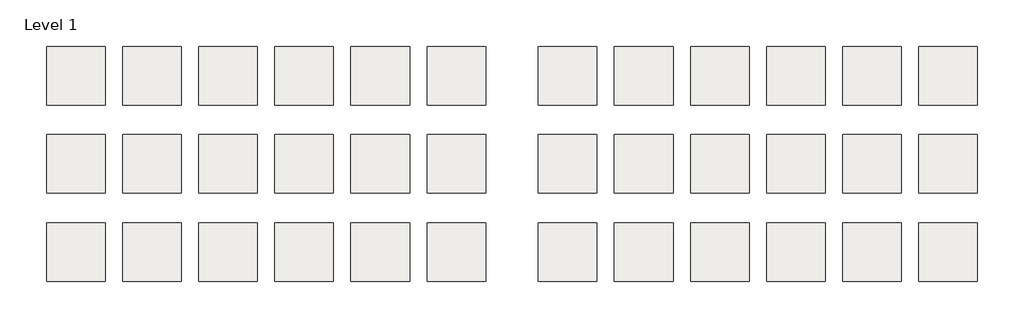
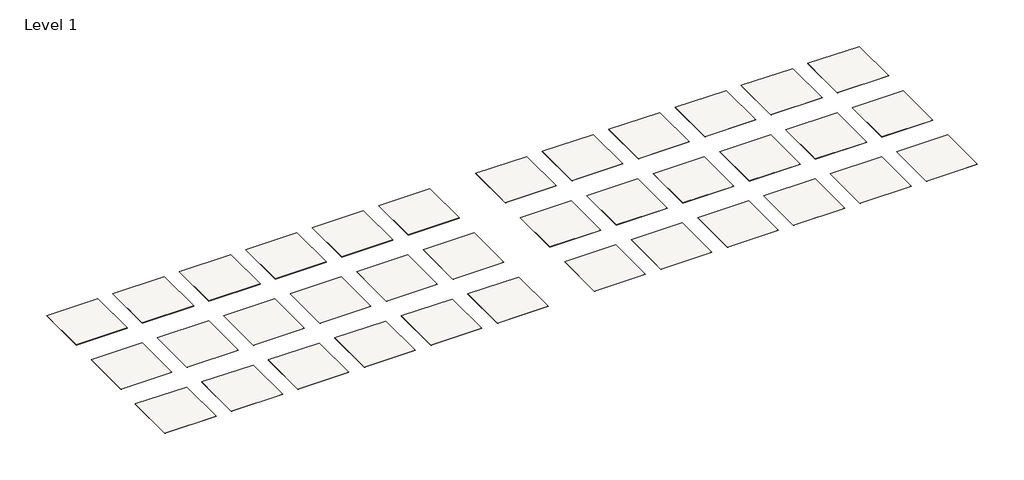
# One storey: 36 slabs.
"""IFC4 building model written with IfcOpenShell, lengths in millimetres."""

from ifc_helpers import new_model, si_unit, frame, origin, place, context, project, spatial, polyline, outline, extrude, element, save

model = new_model("IFC4")

# Units and contexts
model_context = context("Model", 3, world=origin())
ifc_project = project(units=[si_unit("LENGTHUNIT", "METRE", prefix="MILLI")], contexts=[model_context])

# Site, building, storey
site = spatial("IfcSite", under=ifc_project)
building = spatial("IfcBuilding", under=site)
storey = spatial("IfcBuildingStorey", under=building, Name="Level 1", Elevation=0.0)

# Slabs
placement = place(None, origin())
element("IfcSlab", 1, ObjectType="Armstrong_VCT_RaffiaStream_Z5900 Avalanche", at=placement, inside=storey, context=model_context, shape_type="SweptSolid", body=[
    extrude(outline(polyline([(1524.0, 0.0), (0.0, 0.0), (0.0, 1524.0), (1524.0, 1524.0), (1524.0, 0.0)])), frame((0.0, 0.0, -3.175), z_axis=(0.0, 0.0, 1.0), x_axis=(1.0, 0.0, 0.0)), (0.0, 0.0, 1.0), 3.175),
])
element("IfcSlab", 2, ObjectType="Armstrong_VCT_RaffiaStream_Z5901 Rain", at=placement, inside=storey, context=model_context, shape_type="SweptSolid", body=[
    extrude(outline(polyline([(3505.2, 0.0), (1981.2, 0.0), (1981.2, 1524.0), (3505.2, 1524.0), (3505.2, 0.0)])), frame((0.0, 0.0, -3.175), z_axis=(0.0, 0.0, 1.0), x_axis=(1.0, 0.0, 0.0)), (0.0, 0.0, 1.0), 3.175),
])
element("IfcSlab", 3, ObjectType="Armstrong_VCT_RaffiaStream_Z5920 Solar", at=placement, inside=storey, context=model_context, shape_type="SweptSolid", body=[
    extrude(outline(polyline([(5486.4, 0.0), (3962.4, 0.0), (3962.4, 1524.0), (5486.4, 1524.0), (5486.4, 0.0)])), frame((0.0, 0.0, -3.175), z_axis=(0.0, 0.0, 1.0), x_axis=(1.0, 0.0, 0.0)), (0.0, 0.0, 1.0), 3.175),
])
element("IfcSlab", 4, ObjectType="Armstrong_VCT_RaffiaStream_Z5921 Shamrock", at=placement, inside=storey, context=model_context, shape_type="SweptSolid", body=[
    extrude(outline(polyline([(7467.6, 0.0), (5943.6, 0.0), (5943.6, 1524.0), (7467.6, 1524.0), (7467.6, 0.0)])), frame((0.0, 0.0, -3.175), z_axis=(0.0, 0.0, 1.0), x_axis=(1.0, 0.0, 0.0)), (0.0, 0.0, 1.0), 3.175),
])
element("IfcSlab", 5, ObjectType="Armstrong_VCT_RaffiaStream_Z5922 Thunderstorm", at=placement, inside=storey, context=model_context, shape_type="SweptSolid", body=[
    extrude(outline(polyline([(9448.8, 0.0), (7924.8, 0.0), (7924.8, 1524.0), (9448.8, 1524.0), (9448.8, 0.0)])), frame((0.0, 0.0, -3.175), z_axis=(0.0, 0.0, 1.0), x_axis=(1.0, 0.0, 0.0)), (0.0, 0.0, 1.0), 3.175),
])
element("IfcSlab", 6, ObjectType="Armstrong_VCT_RaffiaStream_Z5923 Dark Sky", at=placement, inside=storey, context=model_context, shape_type="SweptSolid", body=[
    extrude(outline(polyline([(11430.0, 0.0), (9906.0, 0.0), (9906.0, 1524.0), (11430.0, 1524.0), (11430.0, 0.0)])), frame((0.0, 0.0, -3.175), z_axis=(0.0, 0.0, 1.0), x_axis=(1.0, 0.0, 0.0)), (0.0, 0.0, 1.0), 3.175),
])
element("IfcSlab", 7, ObjectType="Armstrong_VCT_RaffiaStream_Z5924 Equinox", at=placement, inside=storey, context=model_context, shape_type="SweptSolid", body=[
    extrude(outline(polyline([(1524.0, -2297.2639807), (0.0, -2297.2639807), (0.0, -773.2639807), (1524.0, -773.2639807), (1524.0, -2297.2639807)])), frame((0.0, 0.0, -3.175), z_axis=(0.0, 0.0, 1.0), x_axis=(1.0, 0.0, 0.0)), (0.0, 0.0, 1.0), 3.175),
])
element("IfcSlab", 8, ObjectType="Armstrong_VCT_RaffiaStream_Z5926 Earth", at=placement, inside=storey, context=model_context, shape_type="SweptSolid", body=[
    extrude(outline(polyline([(3505.2, -2297.2639807), (1981.2, -2297.2639807), (1981.2, -773.2639807), (3505.2, -773.2639807), (3505.2, -2297.2639807)])), frame((0.0, 0.0, -3.175), z_axis=(0.0, 0.0, 1.0), x_axis=(1.0, 0.0, 0.0)), (0.0, 0.0, 1.0), 3.175),
])
element("IfcSlab", 9, ObjectType="Armstrong_VCT_RaffiaStream_Z5927 Dust", at=placement, inside=storey, context=model_context, shape_type="SweptSolid", body=[
    extrude(outline(polyline([(5486.4, -2297.2639807), (3962.4, -2297.2639807), (3962.4, -773.2639807), (5486.4, -773.2639807), (5486.4, -2297.2639807)])), frame((0.0, 0.0, -3.175), z_axis=(0.0, 0.0, 1.0), x_axis=(1.0, 0.0, 0.0)), (0.0, 0.0, 1.0), 3.175),
])
element("IfcSlab", 10, ObjectType="Armstrong_VCT_RaffiaStream_Z5928 Winter Solstice", at=placement, inside=storey, context=model_context, shape_type="SweptSolid", body=[
    extrude(outline(polyline([(7467.6, -2297.2639807), (5943.6, -2297.2639807), (5943.6, -773.2639807), (7467.6, -773.2639807), (7467.6, -2297.2639807)])), frame((0.0, 0.0, -3.175), z_axis=(0.0, 0.0, 1.0), x_axis=(1.0, 0.0, 0.0)), (0.0, 0.0, 1.0), 3.175),
])
element("IfcSlab", 11, ObjectType="Armstrong_VCT_RaffiaStream_Z5929 Blizzard", at=placement, inside=storey, context=model_context, shape_type="SweptSolid", body=[
    extrude(outline(polyline([(9448.8, -2297.2639807), (7924.8, -2297.2639807), (7924.8, -773.2639807), (9448.8, -773.2639807), (9448.8, -2297.2639807)])), frame((0.0, 0.0, -3.175), z_axis=(0.0, 0.0, 1.0), x_axis=(1.0, 0.0, 0.0)), (0.0, 0.0, 1.0), 3.175),
])
element("IfcSlab", 12, ObjectType="Armstrong_VCT_RaffiaStream_Z5930 Opal", at=placement, inside=storey, context=model_context, shape_type="SweptSolid", body=[
    extrude(outline(polyline([(11430.0, -2297.2639807), (9906.0, -2297.2639807), (9906.0, -773.2639807), (11430.0, -773.2639807), (11430.0, -2297.2639807)])), frame((0.0, 0.0, -3.175), z_axis=(0.0, 0.0, 1.0), x_axis=(1.0, 0.0, 0.0)), (0.0, 0.0, 1.0), 3.175),
])
element("IfcSlab", 13, ObjectType="Armstrong_VCT_RaffiaStream_Z5933 Grey Cloud", at=placement, inside=storey, context=model_context, shape_type="SweptSolid", body=[
    extrude(outline(polyline([(1524.0, -4594.5279615), (0.0, -4594.5279615), (0.0, -3070.5279615), (1524.0, -3070.5279615), (1524.0, -4594.5279615)])), frame((0.0, 0.0, -3.175), z_axis=(0.0, 0.0, 1.0), x_axis=(1.0, 0.0, 0.0)), (0.0, 0.0, 1.0), 3.175),
])
element("IfcSlab", 14, ObjectType="Armstrong_VCT_RaffiaStream_Z5934 Moonlight", at=placement, inside=storey, context=model_context, shape_type="SweptSolid", body=[
    extrude(outline(polyline([(3505.2, -4594.5279615), (1981.2, -4594.5279615), (1981.2, -3070.5279615), (3505.2, -3070.5279615), (3505.2, -4594.5279615)])), frame((0.0, 0.0, -3.175), z_axis=(0.0, 0.0, 1.0), x_axis=(1.0, 0.0, 0.0)), (0.0, 0.0, 1.0), 3.175),
])
element("IfcSlab", 15, ObjectType="Armstrong_VCT_RaffiaStream_Z5935 Jade", at=placement, inside=storey, context=model_context, shape_type="SweptSolid", body=[
    extrude(outline(polyline([(5486.4, -4594.5279615), (3962.4, -4594.5279615), (3962.4, -3070.5279615), (5486.4, -3070.5279615), (5486.4, -4594.5279615)])), frame((0.0, 0.0, -3.175), z_axis=(0.0, 0.0, 1.0), x_axis=(1.0, 0.0, 0.0)), (0.0, 0.0, 1.0), 3.175),
])
element("IfcSlab", 16, ObjectType="Armstrong_VCT_RaffiaStream_Z5937 Electricity", at=placement, inside=storey, context=model_context, shape_type="SweptSolid", body=[
    extrude(outline(polyline([(7467.6, -4594.5279615), (5943.6, -4594.5279615), (5943.6, -3070.5279615), (7467.6, -3070.5279615), (7467.6, -4594.5279615)])), frame((0.0, 0.0, -3.175), z_axis=(0.0, 0.0, 1.0), x_axis=(1.0, 0.0, 0.0)), (0.0, 0.0, 1.0), 3.175),
])
element("IfcSlab", 17, ObjectType="Armstrong_VCT_RaffiaStream_Z5938 Flame", at=placement, inside=storey, context=model_context, shape_type="SweptSolid", body=[
    extrude(outline(polyline([(9448.8, -4594.5279615), (7924.8, -4594.5279615), (7924.8, -3070.5279615), (9448.8, -3070.5279615), (9448.8, -4594.5279615)])), frame((0.0, 0.0, -3.175), z_axis=(0.0, 0.0, 1.0), x_axis=(1.0, 0.0, 0.0)), (0.0, 0.0, 1.0), 3.175),
])
element("IfcSlab", 18, ObjectType="Armstrong_VCT_RaffiaStream_Z5940 Horizon", at=placement, inside=storey, context=model_context, shape_type="SweptSolid", body=[
    extrude(outline(polyline([(11430.0, -4594.5279615), (9906.0, -4594.5279615), (9906.0, -3070.5279615), (11430.0, -3070.5279615), (11430.0, -4594.5279615)])), frame((0.0, 0.0, -3.175), z_axis=(0.0, 0.0, 1.0), x_axis=(1.0, 0.0, 0.0)), (0.0, 0.0, 1.0), 3.175),
])
element("IfcSlab", 19, ObjectType="Armstrong_VCT_RaffiaStream_Z5900 Avalanche (staggered)", at=placement, inside=storey, context=model_context, shape_type="SweptSolid", body=[
    extrude(outline(polyline([(14325.6, 0.0), (12801.6, 0.0), (12801.6, 1524.0), (14325.6, 1524.0), (14325.6, 0.0)])), frame((0.0, 0.0, -3.175), z_axis=(0.0, 0.0, 1.0), x_axis=(1.0, 0.0, 0.0)), (0.0, 0.0, 1.0), 3.175),
])
element("IfcSlab", 20, ObjectType="Armstrong_VCT_RaffiaStream_Z5901 Rain (Staggered)", at=placement, inside=storey, context=model_context, shape_type="SweptSolid", body=[
    extrude(outline(polyline([(16306.8, 0.0), (14782.8, 0.0), (14782.8, 1524.0), (16306.8, 1524.0), (16306.8, 0.0)])), frame((0.0, 0.0, -3.175), z_axis=(0.0, 0.0, 1.0), x_axis=(1.0, 0.0, 0.0)), (0.0, 0.0, 1.0), 3.175),
])
element("IfcSlab", 21, ObjectType="Armstrong_VCT_RaffiaStream_Z5920 Solar (Staggered)", at=placement, inside=storey, context=model_context, shape_type="SweptSolid", body=[
    extrude(outline(polyline([(18288.0, 0.0), (16764.0, 0.0), (16764.0, 1524.0), (18288.0, 1524.0), (18288.0, 0.0)])), frame((0.0, 0.0, -3.175), z_axis=(0.0, 0.0, 1.0), x_axis=(1.0, 0.0, 0.0)), (0.0, 0.0, 1.0), 3.175),
])
element("IfcSlab", 22, ObjectType="Armstrong_VCT_RaffiaStream_Z5921 Shamrock (Staggered)", at=placement, inside=storey, context=model_context, shape_type="SweptSolid", body=[
    extrude(outline(polyline([(20269.2, 0.0), (18745.2, 0.0), (18745.2, 1524.0), (20269.2, 1524.0), (20269.2, 0.0)])), frame((0.0, 0.0, -3.175), z_axis=(0.0, 0.0, 1.0), x_axis=(1.0, 0.0, 0.0)), (0.0, 0.0, 1.0), 3.175),
])
element("IfcSlab", 23, ObjectType="Armstrong_VCT_RaffiaStream_Z5922 Thunderstorm (Staggered)", at=placement, inside=storey, context=model_context, shape_type="SweptSolid", body=[
    extrude(outline(polyline([(22250.4, 0.0), (20726.4, 0.0), (20726.4, 1524.0), (22250.4, 1524.0), (22250.4, 0.0)])), frame((0.0, 0.0, -3.175), z_axis=(0.0, 0.0, 1.0), x_axis=(1.0, 0.0, 0.0)), (0.0, 0.0, 1.0), 3.175),
])
element("IfcSlab", 24, ObjectType="Armstrong_VCT_RaffiaStream_Z5923 Dark Sky (Staggered)", at=placement, inside=storey, context=model_context, shape_type="SweptSolid", body=[
    extrude(outline(polyline([(24231.6, 0.0), (22707.6, 0.0), (22707.6, 1524.0), (24231.6, 1524.0), (24231.6, 0.0)])), frame((0.0, 0.0, -3.175), z_axis=(0.0, 0.0, 1.0), x_axis=(1.0, 0.0, 0.0)), (0.0, 0.0, 1.0), 3.175),
])
element("IfcSlab", 25, ObjectType="Armstrong_VCT_RaffiaStream_Z5924 Equinox (Staggered)", at=placement, inside=storey, context=model_context, shape_type="SweptSolid", body=[
    extrude(outline(polyline([(14325.6, -2297.2639807), (12801.6, -2297.2639807), (12801.6, -773.2639807), (14325.6, -773.2639807), (14325.6, -2297.2639807)])), frame((0.0, 0.0, -3.175), z_axis=(0.0, 0.0, 1.0), x_axis=(1.0, 0.0, 0.0)), (0.0, 0.0, 1.0), 3.175),
])
element("IfcSlab", 26, ObjectType="Armstrong_VCT_RaffiaStream_Z5926 Earth (Staggered)", at=placement, inside=storey, context=model_context, shape_type="SweptSolid", body=[
    extrude(outline(polyline([(16306.8, -2297.2639807), (14782.8, -2297.2639807), (14782.8, -773.2639807), (16306.8, -773.2639807), (16306.8, -2297.2639807)])), frame((0.0, 0.0, -3.175), z_axis=(0.0, 0.0, 1.0), x_axis=(1.0, 0.0, 0.0)), (0.0, 0.0, 1.0), 3.175),
])
element("IfcSlab", 27, ObjectType="Armstrong_VCT_RaffiaStream_Z5927 Dust (Staggered)", at=placement, inside=storey, context=model_context, shape_type="SweptSolid", body=[
    extrude(outline(polyline([(18288.0, -2297.2639807), (16764.0, -2297.2639807), (16764.0, -773.2639807), (18288.0, -773.2639807), (18288.0, -2297.2639807)])), frame((0.0, 0.0, -3.175), z_axis=(0.0, 0.0, 1.0), x_axis=(1.0, 0.0, 0.0)), (0.0, 0.0, 1.0), 3.175),
])
element("IfcSlab", 28, ObjectType="Armstrong_VCT_RaffiaStream_Z5928 Winter Solstice (Staggered)", at=placement, inside=storey, context=model_context, shape_type="SweptSolid", body=[
    extrude(outline(polyline([(20269.2, -2297.2639807), (18745.2, -2297.2639807), (18745.2, -773.2639807), (20269.2, -773.2639807), (20269.2, -2297.2639807)])), frame((0.0, 0.0, -3.175), z_axis=(0.0, 0.0, 1.0), x_axis=(1.0, 0.0, 0.0)), (0.0, 0.0, 1.0), 3.175),
])
element("IfcSlab", 29, ObjectType="Armstrong_VCT_RaffiaStream_Z5929 Blizzard (Staggered)", at=placement, inside=storey, context=model_context, shape_type="SweptSolid", body=[
    extrude(outline(polyline([(22250.4, -2297.2639807), (20726.4, -2297.2639807), (20726.4, -773.2639807), (22250.4, -773.2639807), (22250.4, -2297.2639807)])), frame((0.0, 0.0, -3.175), z_axis=(0.0, 0.0, 1.0), x_axis=(1.0, 0.0, 0.0)), (0.0, 0.0, 1.0), 3.175),
])
element("IfcSlab", 30, ObjectType="Armstrong_VCT_RaffiaStream_Z5930 Opal (Staggered)", at=placement, inside=storey, context=model_context, shape_type="SweptSolid", body=[
    extrude(outline(polyline([(24231.6, -2297.2639807), (22707.6, -2297.2639807), (22707.6, -773.2639807), (24231.6, -773.2639807), (24231.6, -2297.2639807)])), frame((0.0, 0.0, -3.175), z_axis=(0.0, 0.0, 1.0), x_axis=(1.0, 0.0, 0.0)), (0.0, 0.0, 1.0), 3.175),
])
element("IfcSlab", 31, ObjectType="Armstrong_VCT_RaffiaStream_Z5933 Grey Cloud (Staggered)", at=placement, inside=storey, context=model_context, shape_type="SweptSolid", body=[
    extrude(outline(polyline([(14325.6, -4594.5279615), (12801.6, -4594.5279615), (12801.6, -3070.5279615), (14325.6, -3070.5279615), (14325.6, -4594.5279615)])), frame((0.0, 0.0, -3.175), z_axis=(0.0, 0.0, 1.0), x_axis=(1.0, 0.0, 0.0)), (0.0, 0.0, 1.0), 3.175),
])
element("IfcSlab", 32, ObjectType="Armstrong_VCT_RaffiaStream_Z5934 Moonlight (Staggered)", at=placement, inside=storey, context=model_context, shape_type="SweptSolid", body=[
    extrude(outline(polyline([(16306.8, -4594.5279615), (14782.8, -4594.5279615), (14782.8, -3070.5279615), (16306.8, -3070.5279615), (16306.8, -4594.5279615)])), frame((0.0, 0.0, -3.175), z_axis=(0.0, 0.0, 1.0), x_axis=(1.0, 0.0, 0.0)), (0.0, 0.0, 1.0), 3.175),
])
element("IfcSlab", 33, ObjectType="Armstrong_VCT_RaffiaStream_Z5935 Jade (Staggered)", at=placement, inside=storey, context=model_context, shape_type="SweptSolid", body=[
    extrude(outline(polyline([(18288.0, -4594.5279615), (16764.0, -4594.5279615), (16764.0, -3070.5279615), (18288.0, -3070.5279615), (18288.0, -4594.5279615)])), frame((0.0, 0.0, -3.175), z_axis=(0.0, 0.0, 1.0), x_axis=(1.0, 0.0, 0.0)), (0.0, 0.0, 1.0), 3.175),
])
element("IfcSlab", 34, ObjectType="Armstrong_VCT_RaffiaStream_Z5937 Electricity (Staggered)", at=placement, inside=storey, context=model_context, shape_type="SweptSolid", body=[
    extrude(outline(polyline([(20269.2, -4594.5279615), (18745.2, -4594.5279615), (18745.2, -3070.5279615), (20269.2, -3070.5279615), (20269.2, -4594.5279615)])), frame((0.0, 0.0, -3.175), z_axis=(0.0, 0.0, 1.0), x_axis=(1.0, 0.0, 0.0)), (0.0, 0.0, 1.0), 3.175),
])
element("IfcSlab", 35, ObjectType="Armstrong_VCT_RaffiaStream_Z5938 Flame (Staggered)", at=placement, inside=storey, context=model_context, shape_type="SweptSolid", body=[
    extrude(outline(polyline([(22250.4, -4594.5279615), (20726.4, -4594.5279615), (20726.4, -3070.5279615), (22250.4, -3070.5279615), (22250.4, -4594.5279615)])), frame((0.0, 0.0, -3.175), z_axis=(0.0, 0.0, 1.0), x_axis=(1.0, 0.0, 0.0)), (0.0, 0.0, 1.0), 3.175),
])
element("IfcSlab", 36, ObjectType="Armstrong_VCT_RaffiaStream_Z5940 Horizon (Staggered)", at=placement, inside=storey, context=model_context, shape_type="SweptSolid", body=[
    extrude(outline(polyline([(24231.6, -4594.5279615), (22707.6, -4594.5279615), (22707.6, -3070.5279615), (24231.6, -3070.5279615), (24231.6, -4594.5279615)])), frame((0.0, 0.0, -3.175), z_axis=(0.0, 0.0, 1.0), x_axis=(1.0, 0.0, 0.0)), (0.0, 0.0, 1.0), 3.175),
])

save(model, "model.ifc")
